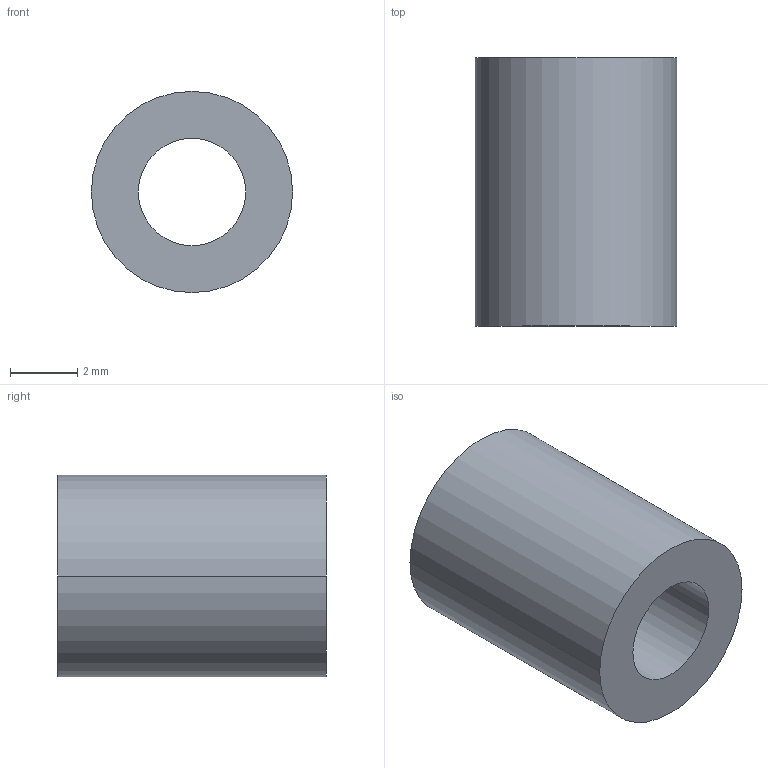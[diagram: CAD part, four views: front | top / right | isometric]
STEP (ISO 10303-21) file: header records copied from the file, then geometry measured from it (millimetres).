
FILE_DESCRIPTION (( 'STEP AP203' ), '1' );
FILE_NAME ('30800.WPP6B3.2.step', '2019-01-23T22:18:31', ( '' ), ( '' ), 'SwSTEP 2.0', 'SolidWorks 2017', '' );
FILE_SCHEMA (( 'CONFIG_CONTROL_DESIGN' ));
Length unit declared in the file: millimetre
Products named in the file (1): 30800.WPP6B3.2
Bounding box: 6 x 8 x 6 mm (x, y, z)
Volume: 159.4 mm3; surface area: 267.8 mm2
Topology: 1 solids, 1 shells, 8 faces, 16 edges, 10 vertices
Faces by surface type: cylinder 4, torus 2, plane 2
Entity records: 297 total; most frequent: DIRECTION 46, CARTESIAN_POINT 35, ORIENTED_EDGE 32, AXIS2_PLACEMENT_3D 21, EDGE_CURVE 16, CIRCLE 12, VERTEX_POINT 10, EDGE_LOOP 10
